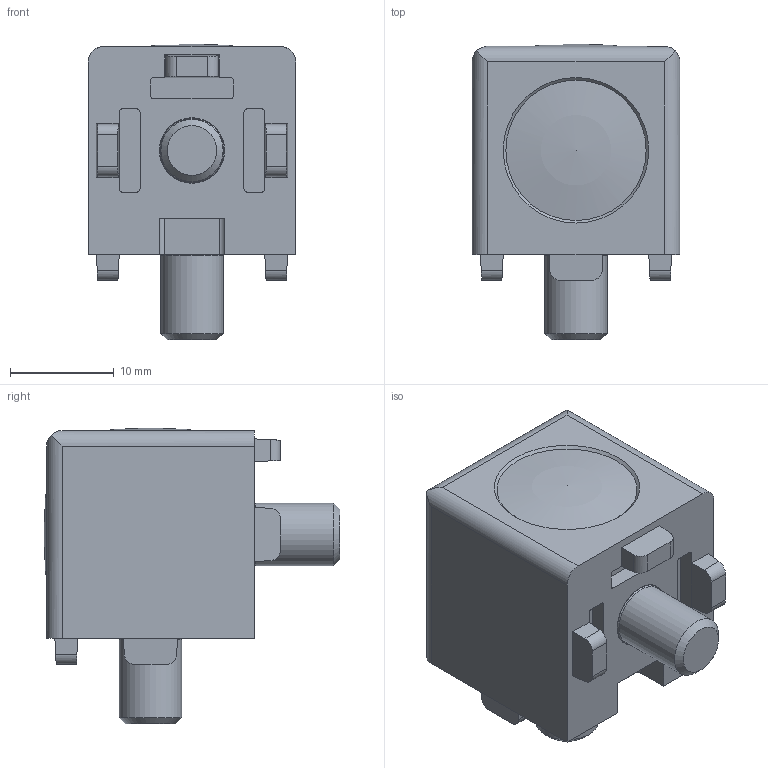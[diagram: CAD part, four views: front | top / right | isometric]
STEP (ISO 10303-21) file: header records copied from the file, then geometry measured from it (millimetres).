
FILE_DESCRIPTION(/* description */ ('STEP AP214'),/* implementation_level */ '2;1');
FILE_NAME(/* name */ '093WW203N06RS',/* time_stamp */ '2025-04-03T10:32:42+02:00',/* author */ ('License CC BY-ND 4.0'),/* organization */ ('CADENAS'),/* preprocessor_version */ 'ST-DEVELOPER v19.3',/* originating_system */ 'PARTsolutions',/* authorisation */ ' ');
FILE_SCHEMA (('AUTOMOTIVE_DESIGN {1 0 10303 214 3 1 1}'));
Length unit declared in the file: millimetre
Products named in the file (4): 093WW203N06RS; 093WW203N06RS_body; 093WW203N06RS_cap; 093WW203N06RS_screw
Assembly tree (5 placements, depth 2):
  093WW203N06RS
    093WW203N06RS_body
    093WW203N06RS_cap  x2
    093WW203N06RS_screw  x2
Bounding box: 20 x 28.47 x 28.47 mm (x, y, z)
Volume: 6067.3 mm3; surface area: 5272.5 mm2
Topology: 5 solids, 5 shells, 205 faces, 519 edges, 330 vertices
Faces by surface type: plane 116, cylinder 67, cone 14, torus 6, sphere 2
Full cylindrical faces by diameter (mm): 6 x2, 6.3 x2, 11 x2, 11.34 x2, 12 x4
Entity records: 4982 total; most frequent: DIRECTION 883, CARTESIAN_POINT 835, ORIENTED_EDGE 794, EDGE_CURVE 397, AXIS2_PLACEMENT_3D 315, VERTEX_POINT 267, LINE 253, VECTOR 253
